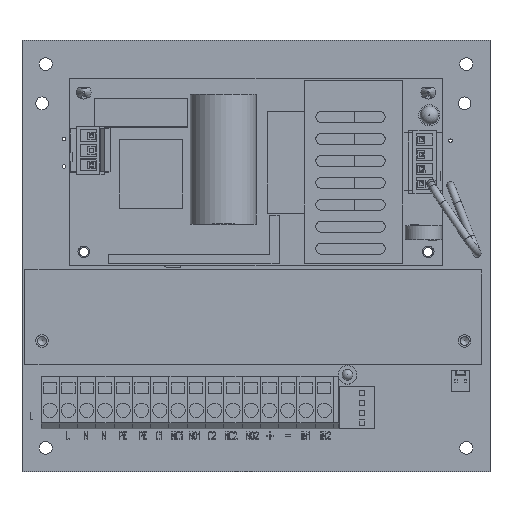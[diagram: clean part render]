
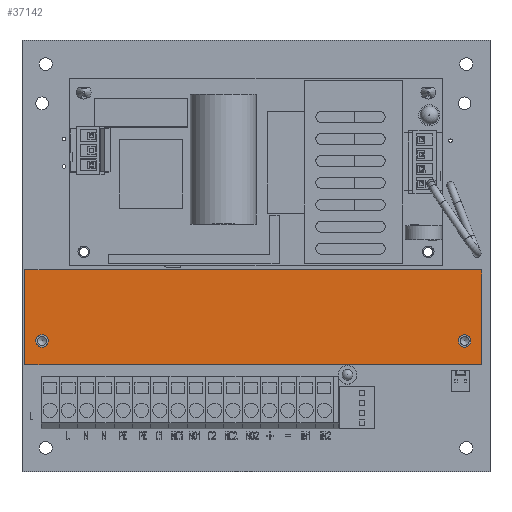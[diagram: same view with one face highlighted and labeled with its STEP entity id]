
A CAD part, top view. The second image highlights one B-rep face of the part: STEP entity #37142.
In plain terms, the highlighted planar face has unit normal (0, 0, 1).
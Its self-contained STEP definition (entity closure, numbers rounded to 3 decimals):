
#1257=CIRCLE('',#38931,1.7);
#1258=CIRCLE('',#38932,1.7);
#8187=ORIENTED_EDGE('',*,*,#12302,.F.);
#8188=ORIENTED_EDGE('',*,*,#12303,.F.);
#8189=ORIENTED_EDGE('',*,*,#12292,.T.);
#8190=ORIENTED_EDGE('',*,*,#12296,.T.);
#8191=ORIENTED_EDGE('',*,*,#12299,.T.);
#8192=ORIENTED_EDGE('',*,*,#12301,.T.);
#12292=EDGE_CURVE('',#14978,#14977,#17885,.T.);
#12296=EDGE_CURVE('',#14977,#14980,#17889,.T.);
#12299=EDGE_CURVE('',#14980,#14982,#17892,.T.);
#12301=EDGE_CURVE('',#14982,#14978,#17894,.T.);
#12302=EDGE_CURVE('',#14983,#14983,#1257,.T.);
#12303=EDGE_CURVE('',#14984,#14984,#1258,.T.);
#14977=VERTEX_POINT('',#58198);
#14978=VERTEX_POINT('',#58200);
#14980=VERTEX_POINT('',#58206);
#14982=VERTEX_POINT('',#58212);
#14983=VERTEX_POINT('',#58219);
#14984=VERTEX_POINT('',#58221);
#17885=LINE('',#58199,#20903);
#17889=LINE('',#58207,#20907);
#17892=LINE('',#58213,#20910);
#17894=LINE('',#58216,#20912);
#20903=VECTOR('',#44881,1000.);
#20907=VECTOR('',#44887,1000.);
#20910=VECTOR('',#44892,1000.);
#20912=VECTOR('',#44896,1000.);
#22991=EDGE_LOOP('',(#8187));
#22992=EDGE_LOOP('',(#8188));
#22993=EDGE_LOOP('',(#8189,#8190,#8191,#8192));
#24893=FACE_BOUND('',#22991,.T.);
#24894=FACE_BOUND('',#22992,.T.);
#24895=FACE_BOUND('',#22993,.T.);
#26241=PLANE('',#38930);
#37142=ADVANCED_FACE('',(#24893,#24894,#24895),#26241,.T.);
#38930=AXIS2_PLACEMENT_3D('',#58217,#44897,#44898);
#38931=AXIS2_PLACEMENT_3D('',#58218,#44899,#44900);
#38932=AXIS2_PLACEMENT_3D('',#58220,#44901,#44902);
#44881=DIRECTION('',(-1.,0.,0.));
#44887=DIRECTION('',(0.,-1.,0.));
#44892=DIRECTION('',(1.,0.,0.));
#44896=DIRECTION('',(0.,1.,0.));
#44897=DIRECTION('',(0.,0.,1.));
#44898=DIRECTION('',(1.,0.,0.));
#44899=DIRECTION('',(0.,0.,1.));
#44900=DIRECTION('',(1.,0.,0.));
#44901=DIRECTION('',(0.,0.,1.));
#44902=DIRECTION('',(1.,0.,0.));
#58198=CARTESIAN_POINT('',(-62.45,12.95,28.1));
#58199=CARTESIAN_POINT('',(62.45,12.95,28.1));
#58200=CARTESIAN_POINT('',(62.45,12.95,28.1));
#58206=CARTESIAN_POINT('',(-62.45,-12.95,28.1));
#58207=CARTESIAN_POINT('',(-62.45,12.95,28.1));
#58212=CARTESIAN_POINT('',(62.45,-12.95,28.1));
#58213=CARTESIAN_POINT('',(-62.45,-12.95,28.1));
#58216=CARTESIAN_POINT('',(62.45,-12.95,28.1));
#58217=CARTESIAN_POINT('',(-62.45,12.95,28.1));
#58218=CARTESIAN_POINT('',(-57.785,-6.45,28.1));
#58219=CARTESIAN_POINT('',(-56.085,-6.45,28.1));
#58220=CARTESIAN_POINT('',(57.785,-6.45,28.1));
#58221=CARTESIAN_POINT('',(59.485,-6.45,28.1));
